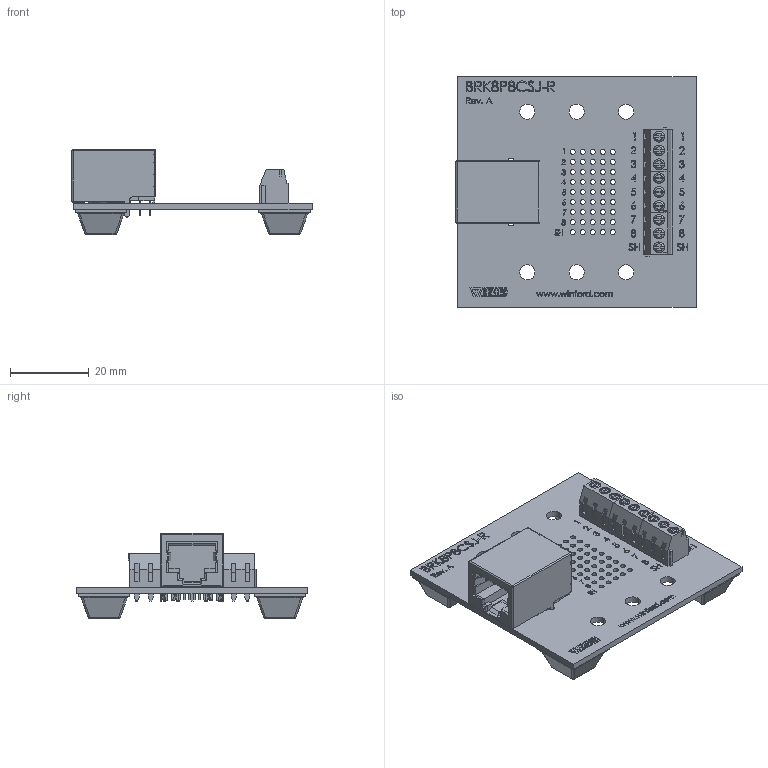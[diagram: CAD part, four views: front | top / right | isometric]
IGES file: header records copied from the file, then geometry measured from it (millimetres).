
Start section: SolidWorks IGES file using analytic representation for surfaces
Global section: file name: C:\Users\Jonny\Documents\Winford Engineering Jobs\BRK8P8CSJ\BRK8P8CSJ-R\brk8p8csj-r-ft_rev_a.igs; native system: SolidWorks 2017; preprocessor: SolidWorks 2017; author: Jonny; date: 171015.225112; units: inch
Bounding box: 60.8 x 58.42 x 21.59 mm (x, y, z)
Volume: 13041.9 mm3; surface area: 14395.3 mm2
Topology: 9 solids, 9 shells, 2312 faces, 6601 edges, 4489 vertices
Faces by surface type: plane 1355, revolution 481, bspline 476
